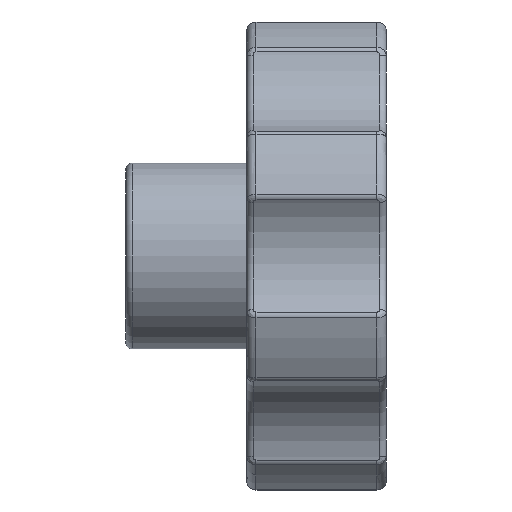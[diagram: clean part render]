
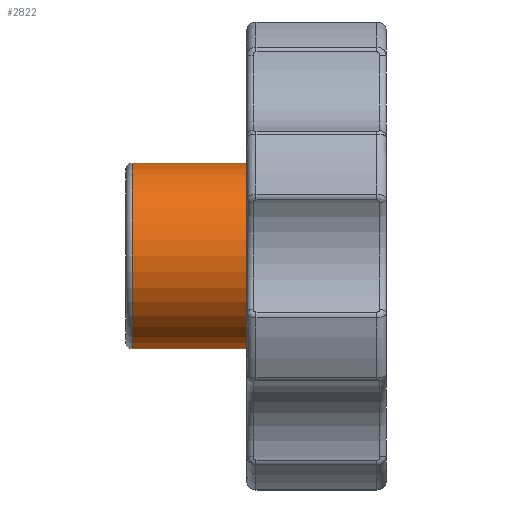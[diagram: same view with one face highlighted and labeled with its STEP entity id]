
A CAD part, left-side view. The second image highlights one B-rep face of the part: STEP entity #2822.
In plain terms, the highlighted cylindrical face has radius 10 mm (diameter 20 mm), a partial arc.
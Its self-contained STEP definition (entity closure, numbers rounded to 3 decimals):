
#149 = CIRCLE ( 'NONE', #2350, 10. ) ;
#160 = DIRECTION ( 'NONE',  ( 0., 0., -1. ) ) ;
#280 = CARTESIAN_POINT ( 'NONE',  ( 0., 0., 10. ) ) ;
#372 = VERTEX_POINT ( 'NONE', #381 ) ;
#374 = FACE_OUTER_BOUND ( 'NONE', #4514, .T. ) ;
#381 = CARTESIAN_POINT ( 'NONE',  ( 0., 3.7, 10. ) ) ;
#389 = CIRCLE ( 'NONE', #581, 10. ) ;
#422 = EDGE_CURVE ( 'NONE', #2086, #829, #3459, .T. ) ;
#520 = CARTESIAN_POINT ( 'NONE',  ( 0., 0., 0. ) ) ;
#581 = AXIS2_PLACEMENT_3D ( 'NONE', #2929, #790, #3295 ) ;
#767 = VECTOR ( 'NONE', #1384, 1000. ) ;
#790 = DIRECTION ( 'NONE',  ( 0., 1., 0. ) ) ;
#829 = VERTEX_POINT ( 'NONE', #1705 ) ;
#878 = LINE ( 'NONE', #280, #767 ) ;
#882 = DIRECTION ( 'NONE',  ( 0., -1., 0. ) ) ;
#1285 = DIRECTION ( 'NONE',  ( 0., -1., 0. ) ) ;
#1384 = DIRECTION ( 'NONE',  ( 0., -1., 0. ) ) ;
#1626 = ORIENTED_EDGE ( 'NONE', *, *, #422, .T. ) ;
#1705 = CARTESIAN_POINT ( 'NONE',  ( 0., 3.7, -10. ) ) ;
#2086 = VERTEX_POINT ( 'NONE', #3329 ) ;
#2296 = CARTESIAN_POINT ( 'NONE',  ( 0., 27.3, 10. ) ) ;
#2350 = AXIS2_PLACEMENT_3D ( 'NONE', #3422, #1285, #3776 ) ;
#2500 = VECTOR ( 'NONE', #3135, 1000. ) ;
#2822 = ADVANCED_FACE ( 'NONE', ( #374 ), #4086, .T. ) ;
#2929 = CARTESIAN_POINT ( 'NONE',  ( 0., 3.7, 0. ) ) ;
#3135 = DIRECTION ( 'NONE',  ( 0., -1., 0. ) ) ;
#3293 = ORIENTED_EDGE ( 'NONE', *, *, #3606, .T. ) ;
#3295 = DIRECTION ( 'NONE',  ( 0., 0., -1. ) ) ;
#3329 = CARTESIAN_POINT ( 'NONE',  ( 0., 27.3, -10. ) ) ;
#3387 = ORIENTED_EDGE ( 'NONE', *, *, #3834, .T. ) ;
#3422 = CARTESIAN_POINT ( 'NONE',  ( 0., 27.3, 0. ) ) ;
#3459 = LINE ( 'NONE', #4209, #2500 ) ;
#3606 = EDGE_CURVE ( 'NONE', #4102, #2086, #149, .T. ) ;
#3776 = DIRECTION ( 'NONE',  ( 0., 0., -1. ) ) ;
#3817 = EDGE_CURVE ( 'NONE', #4102, #372, #878, .T. ) ;
#3834 = EDGE_CURVE ( 'NONE', #829, #372, #389, .T. ) ;
#4086 = CYLINDRICAL_SURFACE ( 'NONE', #4609, 10. ) ;
#4102 = VERTEX_POINT ( 'NONE', #2296 ) ;
#4209 = CARTESIAN_POINT ( 'NONE',  ( 0., 0., -10. ) ) ;
#4514 = EDGE_LOOP ( 'NONE', ( #4541, #3293, #1626, #3387 ) ) ;
#4541 = ORIENTED_EDGE ( 'NONE', *, *, #3817, .F. ) ;
#4609 = AXIS2_PLACEMENT_3D ( 'NONE', #520, #882, #160 ) ;
